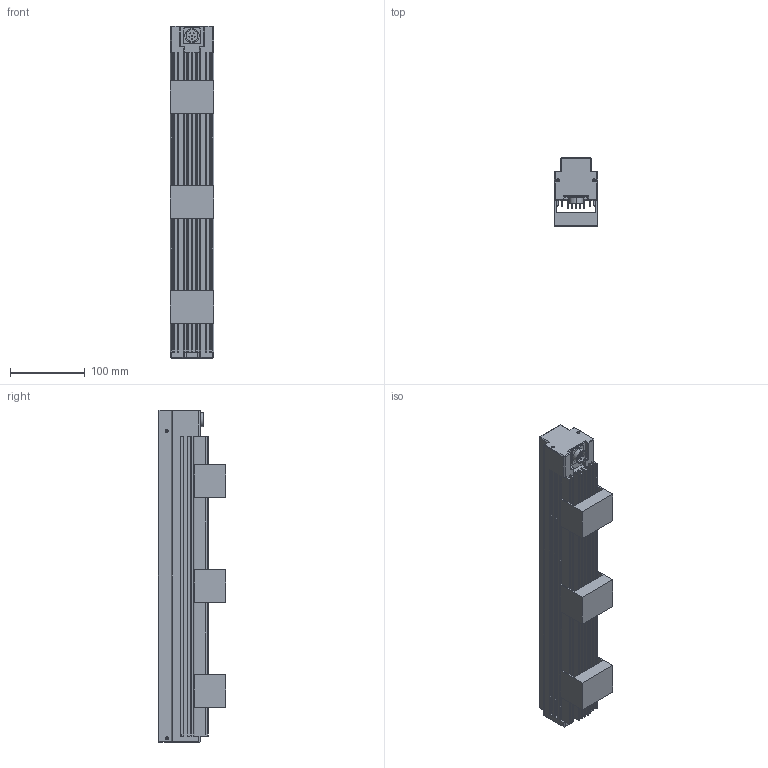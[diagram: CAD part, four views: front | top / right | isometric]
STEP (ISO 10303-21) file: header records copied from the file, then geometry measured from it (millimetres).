
FILE_DESCRIPTION((''),'2;1');
FILE_NAME('MV-LTHS-400-W','2019-09-19T',('win7'),(''),'PRO/ENGINEER BY PARAMETRIC TECHNOLOGY CORPORATION, 2010100','PRO/ENGINEER BY PARAMETRIC TECHNOLOGY CORPORATION, 2010100','');
FILE_SCHEMA(('CONFIG_CONTROL_DESIGN'));
Length unit declared in the file: millimetre
Products named in the file (1): MV-LTHS-400-W
Bounding box: 58 x 90.1 x 443 mm (x, y, z)
Volume: 1426164.2 mm3; surface area: 230573.5 mm2
Topology: 1 solids, 9 shells, 338 faces, 910 edges, 574 vertices
Faces by surface type: plane 224, cylinder 88, cone 26
Entity records: 10376 total; most frequent: CARTESIAN_POINT 1828, DIRECTION 1764, ORIENTED_EDGE 1736, EDGE_CURVE 890, VECTOR 682, LINE 682, VERTEX_POINT 574, AXIS2_PLACEMENT_3D 541
